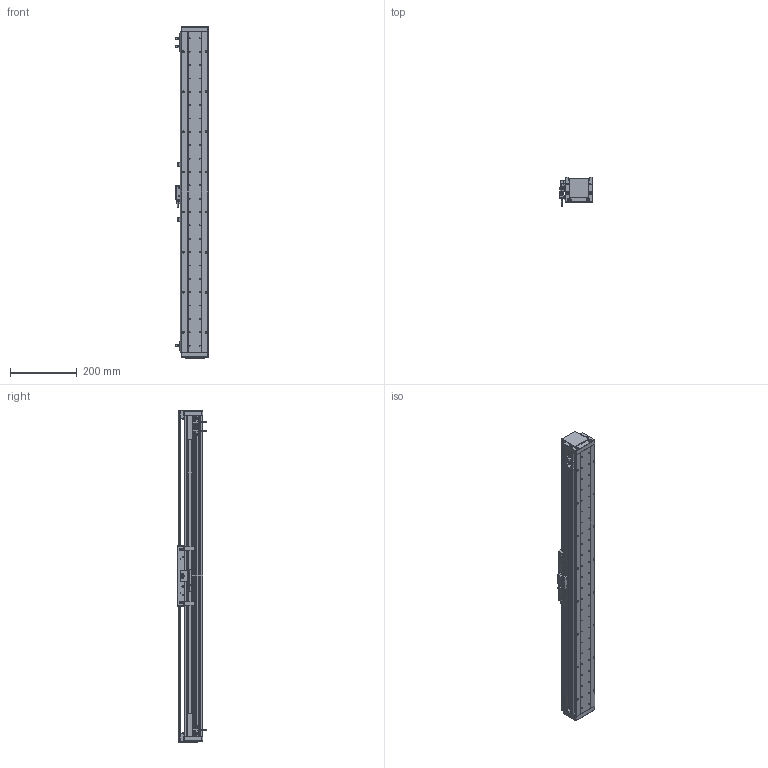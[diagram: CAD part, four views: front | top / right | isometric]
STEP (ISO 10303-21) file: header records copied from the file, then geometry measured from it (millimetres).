
FILE_DESCRIPTION (( 'STEP AP203' ), '1' );
FILE_NAME ('DA-A82-B2-T740-C010-0.2 眻盄萇儂.STEP', '2025-08-13T03:06:46', ( '' ), ( '' ), 'SwSTEP 2.0', 'SolidWorks 2019', '' );
FILE_SCHEMA (( 'CONFIG_CONTROL_DESIGN' ));
Length unit declared in the file: millimetre
Products named in the file (21): 复件 DA95-GT-T-00 底座钢轨^IU-AU82-L 底座导轨; 葩璃 鞠褒情蹟譫 M3^DA-A82-B2-T-C010-0.2; AU82-HT-M-00 賑雄怢啣; 葩璃 DA82-T-002-00 裔啣^DA-A82-B2-T-C010-0.2; DA-A60-GYP-DMT-00 光电感应片^DA-A82-B2-T-C010-0.2(默认); 葩璃 DA60-DMT-DTJ-00 黍杅芛盓殤^DA-A82-B2-T-C010-0.2; 复件 DA95-B2-GT-00 滑块钢轨^AU82-M-00 一体化滑动台板; IU-AU82-L 菁釱絳寢; 复件 复件 DA82-XJ-00 缓冲橡胶^DA-A82-B2-T-C010-0.2; DA-A82-B2-T740-C010-0.2 眻盄萇儂; 葩璃 BKM01-W040-TRL^DA-A82-B2-T-C010-0.2; 葩璃 DA82-B2-DP-00 結え^AU82-M 幗紩賑怢; 葩璃 PM-T45^DA-A82-B2-T-C010-0.2; AU82-M 幗紩賑怢; 复件 DA82-DG-H-N-00 端盖^DA-A82-B2-T-C010-0.2(默认_按加工_); 葩璃 DMT-010 1米m 0.2M^DA-A82-B2-T-C010-0.2; 复件 纯铜油杯 6x6mm^AU82-M 滚珠滑台; ｸｴｼ BKM02-W040-C1-TP-DA-3.0 ﾖｱﾏﾟｵ扈巐ｯﾗﾓ^DA-A82-B2-T-C010-0.2; 葩璃 XD-U-02  棠掑喜^DA-A82-B2-T-C010-0.2; IU-AU82-L-00 菁釱(L960); AU82-M-00 珨极趙賑雄怢啣
Assembly tree (36 placements, depth 4):
  DA-A82-B2-T740-C010-0.2 眻盄萇儂
    IU-AU82-L 菁釱絳寢
      IU-AU82-L-00 菁釱(L960)
      复件 DA95-GT-T-00 底座钢轨^IU-AU82-L 底座导轨  x2
    AU82-M 幗紩賑怢
      AU82-M-00 珨极趙賑雄怢啣
        AU82-HT-M-00 賑雄怢啣
        复件 DA95-B2-GT-00 滑块钢轨^AU82-M-00 一体化滑动台板  x4
      葩璃 DA82-B2-DP-00 結え^AU82-M 幗紩賑怢  x2
      复件 纯铜油杯 6x6mm^AU82-M 滚珠滑台  x2
    葩璃 DA60-DMT-DTJ-00 黍杅芛盓殤^DA-A82-B2-T-C010-0.2
    葩璃 DMT-010 1米m 0.2M^DA-A82-B2-T-C010-0.2
    DA-A60-GYP-DMT-00 光电感应片^DA-A82-B2-T-C010-0.2(默认)  x2
    ｸｴｼ BKM02-W040-C1-TP-DA-3.0 ﾖｱﾏﾟｵ扈巐ｯﾗﾓ^DA-A82-B2-T-C010-0.2
    复件 复件 DA82-XJ-00 缓冲橡胶^DA-A82-B2-T-C010-0.2  x2
    复件 DA82-DG-H-N-00 端盖^DA-A82-B2-T-C010-0.2(默认_按加工_)  x2
    葩璃 DA82-T-002-00 裔啣^DA-A82-B2-T-C010-0.2
    葩璃 BKM01-W040-TRL^DA-A82-B2-T-C010-0.2
    葩璃 PM-T45^DA-A82-B2-T-C010-0.2  x3
    葩璃 XD-U-02  棠掑喜^DA-A82-B2-T-C010-0.2
    葩璃 鞠褒情蹟譫 M3^DA-A82-B2-T-C010-0.2  x6
Bounding box: 98.95 x 87.2 x 994 mm (x, y, z)
Volume: 3233743.3 mm3; surface area: 928335.3 mm2
Topology: 40 solids, 64 shells, 2075 faces, 5434 edges, 3388 vertices
Faces by surface type: cylinder 963, plane 804, cone 252, torus 38, bspline 12, sphere 6
Entity records: 55437 total; most frequent: CARTESIAN_POINT 12233, DIRECTION 8726, ORIENTED_EDGE 8190, EDGE_CURVE 4095, AXIS2_PLACEMENT_3D 3304, VERTEX_POINT 2655, LINE 2118, VECTOR 2118
